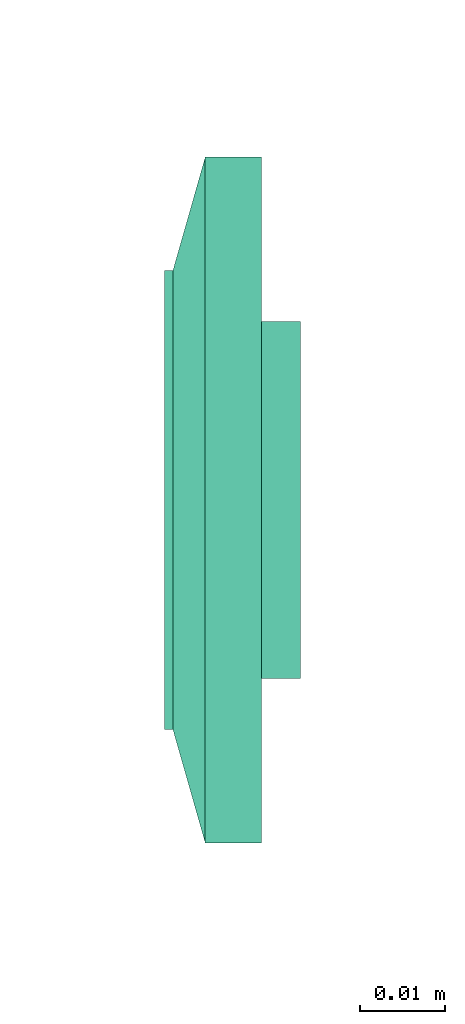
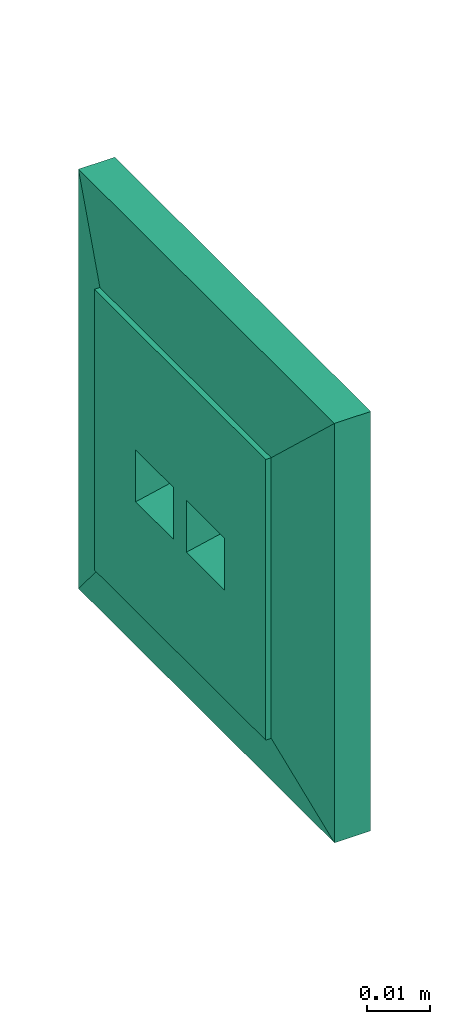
# One storey, part 36 of 146: 1 flow terminal.
"""IFC2X3 building model written with IfcOpenShell, lengths in metres."""

import ifcopenshell
import ifcopenshell.guid

model = None  # the IFC model being written
_history = None  # IfcOwnerHistory: only IFC2X3 demands one
_inside = {}  # id of a spatial element -> (the spatial element, [elements in it])
_under = {}  # id of a project, library or spatial element -> (it, [spatial elements below it])
_declared = {}  # id of a project -> (the project, [libraries it declares])
_typed = {}  # id of a type object -> (the type object, [elements of that type])
_made_of = {}  # id of a material, layer set ... -> (it, [elements and type objects made of it])


def new_model(schema):
    """Start an empty IFC model of exactly this schema.

    Asked for "IFC4X3", IfcOpenShell would pick the latest addendum, in which some entities
    have other attributes; the version numbers below select the first issue.
    IFC2X3 requires an IfcOwnerHistory on every rooted entity: one is made here for all.
    """
    global model, _history
    if schema == "IFC4X3":
        model = ifcopenshell.file(schema_version=(4, 3, 0, 0))
    else:
        model = ifcopenshell.file(schema=schema)
    _inside.clear()
    _under.clear()
    _declared.clear()
    _typed.clear()
    _made_of.clear()
    _history = None
    if model.schema == "IFC2X3":
        org = make("IfcOrganization", Name="unknown")
        user = make(
            "IfcPersonAndOrganization",
            ThePerson=make("IfcPerson", FamilyName="unknown"),
            TheOrganization=org,
        )
        app = make(
            "IfcApplication",
            ApplicationDeveloper=org,
            Version="unknown",
            ApplicationFullName="unknown",
            ApplicationIdentifier="unknown",
        )
        _history = make(
            "IfcOwnerHistory",
            OwningUser=user,
            OwningApplication=app,
            ChangeAction="ADDED",
            CreationDate=0,
        )
    return model


def make(cls, **values):
    """One entity of the class cls with the attributes given. An attribute that is None is left unset."""
    return model.create_entity(
        cls, **{name: value for name, value in values.items() if value is not None}
    )


def entity(cls, *values):
    """Any entity or typed value of the class cls, its attributes in the order of the schema. None: left unset."""
    e = model.create_entity(cls)
    for i, value in enumerate(values):
        if value is not None:
            e[i] = value
    return e


def rooted(cls, **values):
    """An entity with a GlobalId (a new one), such as an element, a storey or a relation."""
    return make(cls, GlobalId=ifcopenshell.guid.new(), OwnerHistory=_history, **values)


def si_unit(unit_type, name, prefix=None):
    """IfcSIUnit, for example si_unit("LENGTHUNIT", "METRE", prefix="MILLI")."""
    return make("IfcSIUnit", UnitType=unit_type, Prefix=prefix, Name=name)


def converted_unit(unit_type, name, factor, base, dimensions=None, offset=None):
    """IfcConversionBasedUnit, such as the inch: factor (a typed value) times the base unit."""
    return make(
        "IfcConversionBasedUnit"
        if offset is None
        else "IfcConversionBasedUnitWithOffset",
        ConversionOffset=offset,
        Dimensions=None
        if dimensions is None
        else entity("IfcDimensionalExponents", *dimensions),
        UnitType=unit_type,
        Name=name,
        ConversionFactor=make(
            "IfcMeasureWithUnit", ValueComponent=factor, UnitComponent=base
        ),
    )


def derived_unit(unit_type, elements):
    """IfcDerivedUnit: a product of units, each with its exponent."""
    return make(
        "IfcDerivedUnit",
        Elements=[
            make("IfcDerivedUnitElement", Unit=unit, Exponent=power)
            for unit, power in elements
        ],
        UnitType=unit_type,
    )


def assignment(units):
    """IfcUnitAssignment: the units of a project."""
    return None if units is None else make("IfcUnitAssignment", Units=units)


def point(xyz):
    """IfcCartesianPoint."""
    return None if xyz is None else make("IfcCartesianPoint", Coordinates=xyz)


def direction(xyz):
    """IfcDirection."""
    return None if xyz is None else make("IfcDirection", DirectionRatios=xyz)


def frame(location, z_axis=None, x_axis=None):
    """IfcAxis2Placement3D, a coordinate frame: its origin and axes. An axis left out is left unset."""
    return make(
        "IfcAxis2Placement3D",
        Location=point(location),
        Axis=direction(z_axis),
        RefDirection=direction(x_axis),
    )


def origin():
    """The frame at (0, 0, 0) with its axes left unset."""
    return frame((0.0, 0.0, 0.0))


def place(relative_to, where):
    """IfcLocalPlacement: puts the frame where relative to a parent placement (None: the world)."""
    return make(
        "IfcLocalPlacement", PlacementRelTo=relative_to, RelativePlacement=where
    )


def context(
    kind, dimensions, precision=None, world=None, true_north=None, identifier=None
):
    """IfcGeometricRepresentationContext, for example the 3D "Model" context."""
    return make(
        "IfcGeometricRepresentationContext",
        ContextIdentifier=identifier,
        ContextType=kind,
        CoordinateSpaceDimension=dimensions,
        Precision=precision,
        WorldCoordinateSystem=world,
        TrueNorth=true_north,
    )


def subcontext(parent, identifier, kind, view, scale=None):
    """IfcGeometricRepresentationSubContext, for example "Body" below "Model"."""
    return make(
        "IfcGeometricRepresentationSubContext",
        ContextIdentifier=identifier,
        ContextType=kind,
        ParentContext=parent,
        TargetScale=scale,
        TargetView=view,
    )


def project(units=None, contexts=None):
    """IfcProject with its units and contexts."""
    return rooted(
        "IfcProject",
        Name="project",
        RepresentationContexts=contexts,
        UnitsInContext=assignment(units),
    )


def spatial(cls, under=None, at=None, **own):
    """A site, building, storey or space (cls), placed at a placement, below another one or the project."""
    s = rooted(cls, ObjectPlacement=at, **own)
    if under is not None:
        _under.setdefault(under.id(), (under, []))[1].append(s)
    return s


def faces_of(points, faces, orient=None, outer=None):
    """IfcFace entities. A face is a list of loops; a loop is a list of indices into points, from 0.

    orient and outer hold one flag for each loop. By default every Orientation is true, the
    first loop of a face is its IfcFaceOuterBound and the others are IfcFaceBound.
    """
    made = []
    for i, loops in enumerate(faces):
        bounds = []
        for j, loop in enumerate(loops):
            is_outer = j == 0 if outer is None else outer[i][j]
            bounds.append(
                make(
                    "IfcFaceOuterBound" if is_outer else "IfcFaceBound",
                    Bound=make("IfcPolyLoop", Polygon=[points[k] for k in loop]),
                    Orientation=True if orient is None else orient[i][j],
                )
            )
        made.append(make("IfcFace", Bounds=bounds))
    return made


def faceted_brep(points, faces, orient=None, outer=None, voids=None):
    """IfcFacetedBrep: a solid bounded by flat faces; with voids (closed shells), ...WithVoids."""
    shared = [point(p) for p in points]
    hull = make("IfcClosedShell", CfsFaces=faces_of(shared, faces, orient, outer))
    if voids is None:
        return make("IfcFacetedBrep", Outer=hull)
    return make(
        "IfcFacetedBrepWithVoids",
        Outer=hull,
        Voids=[
            make(cls, CfsFaces=faces_of(shared, fs, o, b)) for cls, fs, o, b in voids
        ],
    )


def shape(context_of_items, identifier, shape_type, items):
    """IfcShapeRepresentation: the items that make up one representation, for example the "Body"."""
    return make(
        "IfcShapeRepresentation",
        ContextOfItems=context_of_items,
        RepresentationIdentifier=identifier,
        RepresentationType=shape_type,
        Items=items,
    )


def source(mapping_origin, context_of_items, identifier, shape_type, items):
    """IfcRepresentationMap: a shape defined once, which mapped items show again and again."""
    return make(
        "IfcRepresentationMap",
        MappingOrigin=mapping_origin,
        MappedRepresentation=shape(context_of_items, identifier, shape_type, items),
    )


def transform(
    local_origin,
    x_axis=None,
    y_axis=None,
    z_axis=None,
    scale=None,
    scale2=None,
    scale3=None,
    uniform=True,
):
    """IfcCartesianTransformationOperator3D, or its non-uniform kind. x_axis, y_axis, z_axis: its Axis1, 2, 3."""
    if uniform:
        return make(
            "IfcCartesianTransformationOperator3D",
            Axis1=direction(x_axis),
            Axis2=direction(y_axis),
            LocalOrigin=point(local_origin),
            Scale=scale,
            Axis3=direction(z_axis),
        )
    return make(
        "IfcCartesianTransformationOperator3DnonUniform",
        Axis1=direction(x_axis),
        Axis2=direction(y_axis),
        LocalOrigin=point(local_origin),
        Scale=scale,
        Axis3=direction(z_axis),
        Scale2=scale2,
        Scale3=scale3,
    )


def mapped(mapping_source, mapping_target):
    """IfcMappedItem: shows the shape of a source again, moved by a transform."""
    return make(
        "IfcMappedItem", MappingSource=mapping_source, MappingTarget=mapping_target
    )


def made_of(thing, what):
    """Note that an element or type object is made of a material, layer set ...; save() writes the relation."""
    if what is not None:
        _made_of.setdefault(what.id(), (what, []))[1].append(thing)
    return thing


def type_object(cls, material=None, **own):
    """A type object (cls), such as IfcWallType, which elements share."""
    return made_of(rooted(cls, **own), material)


def type_shapes(of_type, sources):
    """Give a type object the sources (RepresentationMaps) that its elements show as mapped items."""
    of_type.RepresentationMaps = sources


def element(
    cls,
    number,
    at=None,
    inside=None,
    cuts=None,
    type_object=None,
    material=None,
    context=None,
    identifier="Body",
    shape_type=None,
    held_by="IfcProductDefinitionShape",
    body=None,
    shapes=None,
    **own,
):
    """One element of the class cls, such as IfcWall. Its Tag is "e" and its number.

    at: its placement. inside: the storey or other place that contains it. cuts: it is an
    opening in that element (IfcRelVoidsElement). A single representation is given by context,
    identifier, shape_type and body (its items); several are given by shapes. held_by: the class
    of the entity that holds the representations. save() writes the other relations.
    """
    e = rooted(cls, Tag="e%d" % number, ObjectPlacement=at, **own)
    if body is not None:
        shapes = [shape(context, identifier, shape_type, body)]
    if shapes is not None:
        e.Representation = make(held_by, Representations=shapes)
    if inside is not None:
        _inside.setdefault(inside.id(), (inside, []))[1].append(e)
    if cuts is not None:
        rooted(
            "IfcRelVoidsElement", RelatingBuildingElement=cuts, RelatedOpeningElement=e
        )
    if type_object is not None:
        _typed.setdefault(type_object.id(), (type_object, []))[1].append(e)
    return made_of(e, material)


def aggregate(whole, parts):
    """IfcRelAggregates: a whole, such as a stair, and the parts it consists of."""
    return rooted("IfcRelAggregates", RelatingObject=whole, RelatedObjects=parts)


def save(model, path):
    """Write the relations noted so far, then the file.

    IfcRelAggregates (storeys below a building ...), IfcRelContainedInSpatialStructure (elements
    in a storey), IfcRelDefinesByType, IfcRelAssociatesMaterial and IfcRelDeclares: one each for
    every whole, place, type object, material and project.
    """
    for whole, parts in _under.values():
        aggregate(whole, parts)
    for where, things in _inside.values():
        rooted(
            "IfcRelContainedInSpatialStructure",
            RelatedElements=things,
            RelatingStructure=where,
        )
    for kind, things in _typed.values():
        rooted("IfcRelDefinesByType", RelatedObjects=things, RelatingType=kind)
    for what, things in _made_of.values():
        rooted("IfcRelAssociatesMaterial", RelatedObjects=things, RelatingMaterial=what)
    for by, libraries in _declared.values():
        rooted("IfcRelDeclares", RelatingContext=by, RelatedDefinitions=libraries)
    model.write(path)


model = new_model("IFC2X3")

# Units and contexts
model_context = context("Model", 3, precision=1e-05, world=origin(), true_north=direction((6.12303176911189e-17, 1.0)))
body_context = subcontext(model_context, "Body", "Model", "MODEL_VIEW")
ifc_project = project(units=[si_unit("LENGTHUNIT", "METRE"), si_unit("AREAUNIT", "SQUARE_METRE"), si_unit("VOLUMEUNIT", "CUBIC_METRE"), converted_unit("PLANEANGLEUNIT", "DEGREE", entity("IfcRatioMeasure", 0.0174532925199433), si_unit("PLANEANGLEUNIT", "RADIAN"), dimensions=[0, 0, 0, 0, 0, 0, 0]), si_unit("MASSUNIT", "GRAM", prefix="KILO"), derived_unit("MASSDENSITYUNIT", [(si_unit("MASSUNIT", "GRAM", prefix="KILO"), 1), (si_unit("LENGTHUNIT", "METRE"), -3)]), si_unit("TIMEUNIT", "SECOND"), si_unit("FREQUENCYUNIT", "HERTZ"), si_unit("THERMODYNAMICTEMPERATUREUNIT", "DEGREE_CELSIUS"), derived_unit("THERMALTRANSMITTANCEUNIT", [(si_unit("MASSUNIT", "GRAM", prefix="KILO"), 1), (si_unit("THERMODYNAMICTEMPERATUREUNIT", "KELVIN"), -1), (si_unit("TIMEUNIT", "SECOND"), -3)]), derived_unit("VOLUMETRICFLOWRATEUNIT", [(si_unit("LENGTHUNIT", "METRE"), 3), (si_unit("TIMEUNIT", "SECOND"), -1)]), si_unit("ELECTRICCURRENTUNIT", "AMPERE"), si_unit("ELECTRICVOLTAGEUNIT", "VOLT"), si_unit("POWERUNIT", "WATT"), si_unit("FORCEUNIT", "NEWTON"), si_unit("ILLUMINANCEUNIT", "LUX"), si_unit("LUMINOUSFLUXUNIT", "LUMEN"), si_unit("LUMINOUSINTENSITYUNIT", "CANDELA"), derived_unit("USERDEFINED", [(si_unit("MASSUNIT", "GRAM", prefix="KILO"), -1), (si_unit("LENGTHUNIT", "METRE"), -2), (si_unit("TIMEUNIT", "SECOND"), 3), (si_unit("LUMINOUSFLUXUNIT", "LUMEN"), 1)]), derived_unit("LINEARVELOCITYUNIT", [(si_unit("LENGTHUNIT", "METRE"), 1), (si_unit("TIMEUNIT", "SECOND"), -1)]), si_unit("PRESSUREUNIT", "PASCAL"), derived_unit("USERDEFINED", [(si_unit("LENGTHUNIT", "METRE"), -2), (si_unit("MASSUNIT", "GRAM", prefix="KILO"), 1), (si_unit("TIMEUNIT", "SECOND"), -2)])], contexts=[model_context])

# Site, building, storey
site_placement = place(None, origin())
site = spatial("IfcSite", under=ifc_project, at=site_placement, Name="Default", CompositionType="ELEMENT")
building_placement = place(site_placement, origin())
building = spatial("IfcBuilding", under=site, at=building_placement, CompositionType="ELEMENT")
storey_placement = place(building_placement, origin())
storey = spatial("IfcBuildingStorey", under=building, at=storey_placement, Name="S01", CompositionType="ELEMENT", Elevation=0.0)

# Flow terminal
electric_appliance_type = type_object("IfcElectricApplianceType", Name="RJ45 IP20", PredefinedType="NOTDEFINED")
shared_shape = source(origin(), body_context, "Body", "Brep", [
    faceted_brep([(0.00200000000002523, 0.0, 0.00799999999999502), (0.00400000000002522, 0.0, 0.00799999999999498), (0.00500000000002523, 0.00199999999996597, 0.00799999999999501), (0.0110000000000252, 0.00199999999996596, 0.00799999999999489), (0.0120000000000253, 0.0, 0.00799999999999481), (0.0140000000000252, 0.0, 0.00799999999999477), (0.0140000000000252, 0.00399999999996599, 0.00799999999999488), (0.00200000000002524, 0.00399999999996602, 0.00799999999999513), (0.00200000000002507, 0.0, 0.0), (0.00200000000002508, 0.00399999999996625, 0.0), (0.0140000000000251, 0.00399999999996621, 0.0), (0.0140000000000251, 0.0, 0.0), (0.0120000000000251, 0.0, 0.0), (0.0110000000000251, 0.00199999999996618, 0.0), (0.00500000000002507, 0.0019999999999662, 0.0), (0.00400000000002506, 0.0, 0.0)], [[[0, 1, 2, 3, 4, 5, 6, 7]], [[8, 9, 10, 11, 12, 13, 14, 15]], [[1, 0, 8, 15]], [[2, 1, 15, 14]], [[3, 2, 14, 13]], [[4, 3, 13, 12]], [[5, 4, 12, 11]], [[6, 5, 11, 10]], [[7, 6, 10, 9]], [[0, 7, 9, 8]]]),
    faceted_brep([(-0.0139999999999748, 0.0, 0.00799999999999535), (-0.0119999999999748, 0.0, 0.00799999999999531), (-0.0109999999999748, 0.00199999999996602, 0.00799999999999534), (-0.00499999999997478, 0.00199999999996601, 0.00799999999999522), (-0.0039999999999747, 0.0, 0.00799999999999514), (-0.00199999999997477, 0.0, 0.0079999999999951), (-0.00199999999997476, 0.00399999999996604, 0.00799999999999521), (-0.0139999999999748, 0.00399999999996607, 0.00799999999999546), (-0.0139999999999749, 0.0, 0.0), (-0.0139999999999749, 0.00399999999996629, 0.0), (-0.00199999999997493, 0.00399999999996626, 0.0), (-0.00199999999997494, 0.0, 0.0), (-0.00399999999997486, 0.0, 0.0), (-0.00499999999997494, 0.00199999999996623, 0.0), (-0.0109999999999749, 0.00199999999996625, 0.0), (-0.0119999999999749, 0.0, 0.0)], [[[0, 1, 2, 3, 4, 5, 6, 7]], [[8, 9, 10, 11, 12, 13, 14, 15]], [[1, 0, 8, 15]], [[2, 1, 15, 14]], [[3, 2, 14, 13]], [[4, 3, 13, 12]], [[5, 4, 12, 11]], [[6, 5, 11, 10]], [[7, 6, 10, 9]], [[0, 7, 9, 8]]]),
    faceted_brep([(0.0140000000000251, 0.00399999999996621, 0.0), (0.00200000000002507, 0.00399999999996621, 0.0), (0.00200000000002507, -0.00350000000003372, 0.0), (0.0140000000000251, -0.00350000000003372, 0.0), (0.0140000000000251, 0.00399999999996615, 0.00199999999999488), (0.00200000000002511, 0.00399999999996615, 0.00199999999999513), (0.00200000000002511, -0.00393859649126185, 0.00199999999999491), (0.0140000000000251, -0.00393859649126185, 0.00199999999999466), (0.0210000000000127, 0.0209999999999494, 0.00199999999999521), (-0.0209999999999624, 0.0209999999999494, 0.00199999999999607), (-0.0209999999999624, -0.0210000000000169, 0.00199999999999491), (0.0210000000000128, -0.0210000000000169, 0.00199999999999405), (-0.0139999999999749, 0.0039999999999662, 0.00199999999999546), (-0.0019999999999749, 0.0039999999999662, 0.00199999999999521), (-0.00199999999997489, -0.0039385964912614, 0.00199999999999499), (-0.0139999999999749, -0.00393859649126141, 0.00199999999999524), (0.0210000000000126, 0.0209999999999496, -0.00460000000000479), (0.0210000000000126, -0.0210000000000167, -0.00460000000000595), (-0.0209999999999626, -0.0210000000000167, -0.00460000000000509), (-0.0209999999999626, 0.0209999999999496, -0.00460000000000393), (-0.00199999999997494, 0.00399999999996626, 0.0), (-0.0139999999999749, 0.00399999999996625, 0.0), (-0.0139999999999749, -0.00350000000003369, 0.0), (-0.00199999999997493, -0.00350000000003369, 0.0)], [[[0, 1, 2, 3]], [[1, 0, 4, 5]], [[2, 1, 5, 6]], [[3, 2, 6, 7]], [[0, 3, 7, 4]], [[5, 4, 7, 6], [8, 9, 10, 11], [12, 13, 14, 15]], [[16, 17, 18, 19]], [[9, 8, 16, 19]], [[10, 9, 19, 18]], [[11, 10, 18, 17]], [[8, 11, 17, 16]], [[20, 21, 22, 23]], [[21, 20, 13, 12]], [[22, 21, 12, 15]], [[23, 22, 15, 14]], [[20, 23, 14, 13]]], outer=[[True], [True], [True], [True], [True], [False, True, False], [True], [True], [True], [True], [True], [True], [True], [True], [True], [True]]),
    faceted_brep([(0.0270000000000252, 0.026999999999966, 0.0113999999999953), (-0.0269999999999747, 0.026999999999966, 0.0113999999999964), (-0.0269999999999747, -0.0270000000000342, 0.0113999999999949), (0.0270000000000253, -0.0270000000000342, 0.0113999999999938), (0.0020000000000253, 0.00399999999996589, 0.0113999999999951), (0.0140000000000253, 0.00399999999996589, 0.0113999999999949), (0.0140000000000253, -0.00600000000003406, 0.0113999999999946), (0.0020000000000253, -0.00600000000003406, 0.0113999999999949), (-0.0139999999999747, 0.00399999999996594, 0.0113999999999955), (-0.00199999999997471, 0.00399999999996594, 0.0113999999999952), (-0.00199999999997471, -0.0060000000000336, 0.0113999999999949), (-0.0139999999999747, -0.00600000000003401, 0.0113999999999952), (0.0270000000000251, 0.0269999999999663, 0.00199999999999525), (0.0270000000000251, -0.0270000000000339, 0.00199999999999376), (-0.0269999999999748, -0.0270000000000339, 0.00199999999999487), (-0.0269999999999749, 0.0269999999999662, 0.00199999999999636), (0.0140000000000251, 0.00399999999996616, 0.00199999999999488), (0.00200000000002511, 0.00399999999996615, 0.00199999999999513), (0.00200000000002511, -0.00393859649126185, 0.00199999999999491), (0.0140000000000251, -0.00393859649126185, 0.00199999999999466), (-0.00199999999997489, 0.0039999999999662, 0.00199999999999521), (-0.0139999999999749, 0.0039999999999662, 0.00199999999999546), (-0.0139999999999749, -0.0039385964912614, 0.00199999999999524), (-0.00199999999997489, -0.0039385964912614, 0.00199999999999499)], [[[0, 1, 2, 3], [4, 5, 6, 7], [8, 9, 10, 11]], [[12, 13, 14, 15], [16, 17, 18, 19], [20, 21, 22, 23]], [[1, 0, 12, 15]], [[2, 1, 15, 14]], [[3, 2, 14, 13]], [[0, 3, 13, 12]], [[4, 17, 16, 5]], [[17, 4, 7, 18]], [[18, 7, 6, 19]], [[5, 16, 19, 6]], [[8, 21, 20, 9]], [[21, 8, 11, 22]], [[22, 11, 10, 23]], [[9, 20, 23, 10]]]),
    faceted_brep([(0.027000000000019, 0.0269999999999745, 0.00659999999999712), (-0.0269999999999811, 0.0269999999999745, 0.00659999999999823), (-0.026999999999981, -0.0270000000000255, 0.00659999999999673), (0.027000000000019, -0.0270000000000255, 0.00659999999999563), (0.040350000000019, 0.0403499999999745, 0.00659999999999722), (0.040350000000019, -0.0403500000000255, 0.00659999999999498), (-0.0403499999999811, -0.0403500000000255, 0.00659999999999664), (-0.0403499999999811, 0.0403499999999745, 0.00659999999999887), (-0.026999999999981, 0.0269999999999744, 0.0103999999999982), (0.027000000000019, 0.0269999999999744, 0.0103999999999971), (-0.026999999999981, -0.0270000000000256, 0.0103999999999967), (0.027000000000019, -0.0270000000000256, 0.0103999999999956)], [[[0, 1, 2, 3], [4, 5, 6, 7]], [[4, 7, 8, 9]], [[7, 6, 10, 8]], [[6, 5, 11, 10]], [[5, 4, 9, 11]], [[0, 9, 8, 1]], [[1, 8, 10, 2]], [[2, 10, 11, 3]], [[9, 0, 3, 11]]], outer=[[False, True], [True], [True], [True], [True], [True], [True], [True], [True]]),
    faceted_brep([(0.040350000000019, 0.0403499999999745, 0.00659999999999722), (-0.0403499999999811, 0.0403499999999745, 0.00659999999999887), (-0.0403499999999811, -0.0403500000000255, 0.00659999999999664), (0.040350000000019, -0.0403500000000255, 0.00659999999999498), (-0.0269999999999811, 0.0269999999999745, 0.00659999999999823), (0.0270000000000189, 0.0269999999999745, 0.00659999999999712), (0.0270000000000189, -0.0270000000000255, 0.00659999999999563), (-0.0269999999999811, -0.0270000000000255, 0.00659999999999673), (0.0403500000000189, 0.0403499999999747, 0.0), (0.0403500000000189, -0.0403500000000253, 0.0), (-0.0403499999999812, -0.0403500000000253, 0.0), (-0.0403499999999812, 0.0403499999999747, 0.0), (0.0270000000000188, 0.0269999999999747, 0.0), (-0.0269999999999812, 0.0269999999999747, 0.0), (-0.0269999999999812, -0.0270000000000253, 0.0), (0.0270000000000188, -0.0270000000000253, 0.0)], [[[0, 1, 2, 3], [4, 5, 6, 7]], [[8, 9, 10, 11], [12, 13, 14, 15]], [[1, 0, 8, 11]], [[2, 1, 11, 10]], [[3, 2, 10, 9]], [[0, 3, 9, 8]], [[12, 5, 4, 13]], [[13, 4, 7, 14]], [[14, 7, 6, 15]], [[5, 12, 15, 6]]]),
])
type_shapes(electric_appliance_type, [shared_shape])
flow_terminal_placement = place(storey_placement, frame((40.8031955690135, -188.755010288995, 0.320000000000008), z_axis=(-1.0, 0.0, 0.0), x_axis=(0.0, -1.0, 0.0)))
element("IfcFlowTerminal", 1, at=flow_terminal_placement, inside=storey, type_object=electric_appliance_type, Name="INT_Prise RJ45:RJ45 IP20", ObjectType="INT_Prise RJ45:RJ45 IP20", context=body_context, shape_type="MappedRepresentation", body=[
    mapped(shared_shape, transform((0.0, 0.0, 0.0), scale=1.0)),
])

save(model, "model.ifc")
